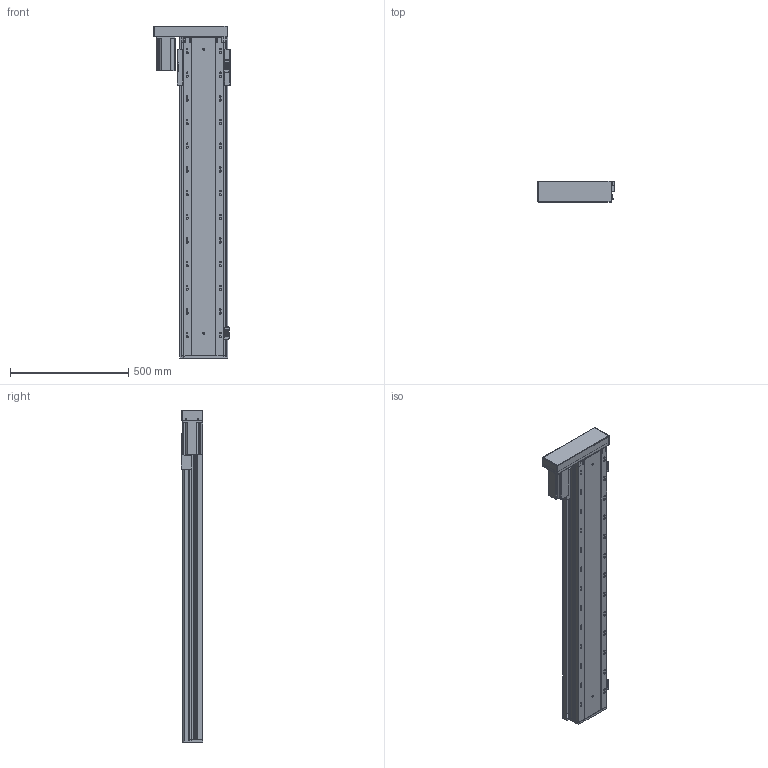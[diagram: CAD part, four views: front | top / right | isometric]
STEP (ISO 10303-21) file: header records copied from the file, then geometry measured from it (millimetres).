
FILE_DESCRIPTION (( 'STEP AP203' ), '1' );
FILE_NAME ('RY170FB-L2020-300-LK.SLDASM_1100.step', '2021-02-23T03:03:05', ( '盈信电脑' ), ( '东莞市道滘镇水果街19号' ), 'SwSTEP 2.0', 'SolidWorks 2012', '' );
FILE_SCHEMA (( 'CONFIG_CONTROL_DESIGN' ));
Length unit declared in the file: millimetre
Products named in the file (16): RY170FB-酘衵殏萇儂欶750W; RY170FB-L2020-300-LK.SLDASM_1100; RY140-674嫖萇耀輸; RY170FB-左右折电机安装板750W; RY140FB-674嫖萇覜茼え; RY170FB-300蛌殏奻裔-LK_1100; 覜茼ん674; RY170FB-綴裔啣; RY140直线电机感应器674光电安装座; RY170FB-转折电机端支撑座(7002); 滅袉蝶18-10; 怢湛750W萇儂ㄗ80遺ㄘ; RY170FB-铝滑块(25丝杆）; RY170FB-300蛌殏倰第菁釱-LK_1100; 滅袉蝶18-28
Assembly tree (18 placements, depth 3):
  RY170FB-L2020-300-LK.SLDASM_1100
    RY170FB-300蛌殏倰第菁釱-LK_1100
    滅袉蝶18-28
    滅袉蝶18-10
    RY170FB-转折电机端支撑座(7002)
    怢湛750W萇儂ㄗ80遺ㄘ
    RY170FB-铝滑块(25丝杆）
    RY170FB-綴裔啣
    RY170FB-300蛌殏奻裔-LK_1100
    RY140-674嫖萇耀輸
      覜茼ん674  x2
      RY140直线电机感应器674光电安装座
    RY140-674嫖萇耀輸
      覜茼ん674
      RY140直线电机感应器674光电安装座
    RY140FB-674嫖萇覜茼え
    RY170FB-左右折电机安装板750W
    RY170FB-酘衵殏萇儂欶750W
Bounding box: 323.95 x 90.5 x 1402.7 mm (x, y, z)
Volume: 8360249.2 mm3; surface area: 2463059.1 mm2
Topology: 16 solids, 16 shells, 1785 faces, 5206 edges, 3308 vertices
Faces by surface type: cylinder 995, plane 602, cone 180, bspline 8
Entity records: 59407 total; most frequent: CARTESIAN_POINT 15378, ORIENTED_EDGE 9104, DIRECTION 8550, EDGE_CURVE 4552, AXIS2_PLACEMENT_3D 3142, VERTEX_POINT 2988, VECTOR 2266, LINE 2266
